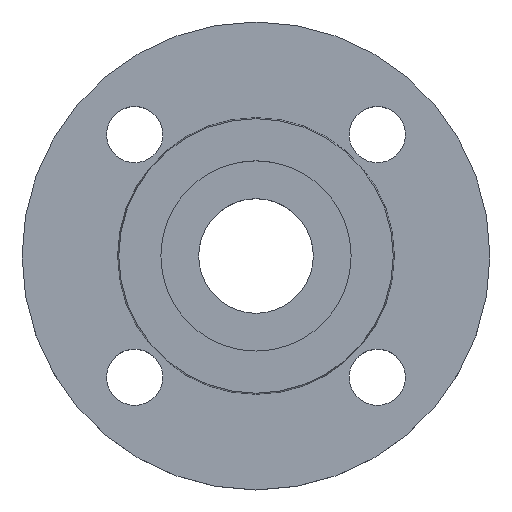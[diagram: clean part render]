
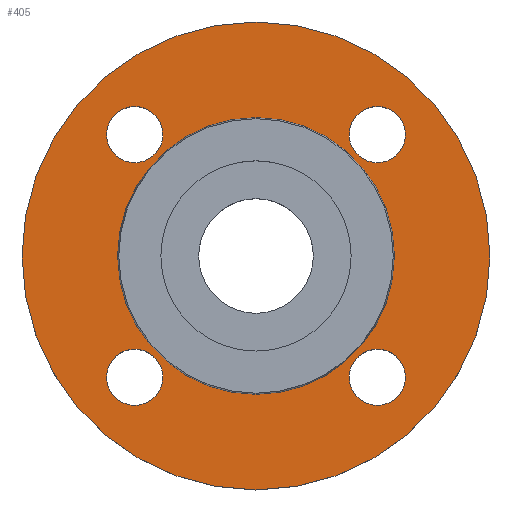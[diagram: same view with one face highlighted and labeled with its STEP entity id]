
A CAD part, top view. The second image highlights one B-rep face of the part: STEP entity #405.
In plain terms, the highlighted planar face has unit normal (0, 0, 1).
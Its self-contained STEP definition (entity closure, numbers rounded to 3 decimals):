
#7 = EDGE_CURVE ( 'NONE', #546, #531, #693, .T. ) ;
#25 = EDGE_CURVE ( 'NONE', #572, #395, #574, .T. ) ;
#82 = CIRCLE ( 'NONE', #93, 9. ) ;
#86 = DIRECTION ( 'NONE',  ( 0., 0., -1. ) ) ;
#88 = DIRECTION ( 'NONE',  ( 1., 0., 0. ) ) ;
#93 = AXIS2_PLACEMENT_3D ( 'NONE', #412, #86, #88 ) ;
#106 = DIRECTION ( 'NONE',  ( 1., 0., 0. ) ) ;
#107 = CARTESIAN_POINT ( 'NONE',  ( 47.891, -38.891, -2. ) ) ;
#109 = CIRCLE ( 'NONE', #111, 9. ) ;
#111 = AXIS2_PLACEMENT_3D ( 'NONE', #234, #235, #238 ) ;
#112 = CARTESIAN_POINT ( 'NONE',  ( 38.891, -38.891, -2. ) ) ;
#116 = FACE_BOUND ( 'NONE', #567, .T. ) ;
#122 = FACE_BOUND ( 'NONE', #331, .T. ) ;
#125 = FACE_BOUND ( 'NONE', #385, .T. ) ;
#129 = CIRCLE ( 'NONE', #144, 44.353 ) ;
#133 = FACE_BOUND ( 'NONE', #588, .T. ) ;
#136 = DIRECTION ( 'NONE',  ( -1., 0., 0. ) ) ;
#137 = DIRECTION ( 'NONE',  ( 0., 0., -1. ) ) ;
#138 = CARTESIAN_POINT ( 'NONE',  ( 0., 0., -2. ) ) ;
#141 = DIRECTION ( 'NONE',  ( 0., 0., -1. ) ) ;
#144 = AXIS2_PLACEMENT_3D ( 'NONE', #138, #137, #136 ) ;
#150 = CIRCLE ( 'NONE', #227, 9. ) ;
#157 = CARTESIAN_POINT ( 'NONE',  ( -44.353, 0., -2. ) ) ;
#161 = CARTESIAN_POINT ( 'NONE',  ( 0., 0., -2. ) ) ;
#164 = DIRECTION ( 'NONE',  ( 0., 0., -1. ) ) ;
#171 = FACE_BOUND ( 'NONE', #570, .T. ) ;
#172 = CARTESIAN_POINT ( 'NONE',  ( 44.353, 0., -2. ) ) ;
#175 = CARTESIAN_POINT ( 'NONE',  ( -47.891, -38.891, -2. ) ) ;
#176 = FACE_OUTER_BOUND ( 'NONE', #363, .T. ) ;
#181 = PLANE ( 'NONE',  #413 ) ;
#186 = CARTESIAN_POINT ( 'NONE',  ( -29.891, -38.891, -2. ) ) ;
#187 = CIRCLE ( 'NONE', #417, 75. ) ;
#188 = CARTESIAN_POINT ( 'NONE',  ( -47.891, 38.891, -2. ) ) ;
#189 = CARTESIAN_POINT ( 'NONE',  ( 44.353, 0., -2. ) ) ;
#192 = DIRECTION ( 'NONE',  ( 0., 0., 1. ) ) ;
#195 = DIRECTION ( 'NONE',  ( 0., 0., -1. ) ) ;
#197 = DIRECTION ( 'NONE',  ( 1., 0., 0. ) ) ;
#200 = CARTESIAN_POINT ( 'NONE',  ( 75., 0., -2. ) ) ;
#205 = CARTESIAN_POINT ( 'NONE',  ( 0., 0., -2. ) ) ;
#207 = CARTESIAN_POINT ( 'NONE',  ( 29.891, -38.891, -2. ) ) ;
#209 = DIRECTION ( 'NONE',  ( 0., 0., -1. ) ) ;
#211 = DIRECTION ( 'NONE',  ( -1., 0., 0. ) ) ;
#227 = AXIS2_PLACEMENT_3D ( 'NONE', #626, #195, #358 ) ;
#234 = CARTESIAN_POINT ( 'NONE',  ( 38.891, 38.891, -2. ) ) ;
#235 = DIRECTION ( 'NONE',  ( 0., 0., -1. ) ) ;
#238 = DIRECTION ( 'NONE',  ( 1., 0., 0. ) ) ;
#239 = CIRCLE ( 'NONE', #590, 9. ) ;
#255 = AXIS2_PLACEMENT_3D ( 'NONE', #716, #718, #719 ) ;
#258 = EDGE_CURVE ( 'NONE', #316, #318, #802, .T. ) ;
#260 = AXIS2_PLACEMENT_3D ( 'NONE', #600, #601, #602 ) ;
#272 = EDGE_CURVE ( 'NONE', #550, #499, #774, .T. ) ;
#274 = ORIENTED_EDGE ( 'NONE', *, *, #418, .F. ) ;
#292 = CARTESIAN_POINT ( 'NONE',  ( -75., 0., -2. ) ) ;
#316 = VERTEX_POINT ( 'NONE', #771 ) ;
#318 = VERTEX_POINT ( 'NONE', #776 ) ;
#322 = ORIENTED_EDGE ( 'NONE', *, *, #258, .T. ) ;
#331 = EDGE_LOOP ( 'NONE', ( #431, #433 ) ) ;
#334 = VERTEX_POINT ( 'NONE', #787 ) ;
#340 = EDGE_CURVE ( 'NONE', #531, #546, #564, .T. ) ;
#358 = DIRECTION ( 'NONE',  ( 1., 0., 0. ) ) ;
#363 = EDGE_LOOP ( 'NONE', ( #500, #274 ) ) ;
#373 = DIRECTION ( 'NONE',  ( -1., 0., 0. ) ) ;
#375 = EDGE_CURVE ( 'NONE', #537, #334, #82, .T. ) ;
#385 = EDGE_LOOP ( 'NONE', ( #538, #526 ) ) ;
#395 = VERTEX_POINT ( 'NONE', #107 ) ;
#400 = AXIS2_PLACEMENT_3D ( 'NONE', #741, #742, #743 ) ;
#405 = ADVANCED_FACE ( 'NONE', ( #116, #122, #125, #133, #171, #176 ), #181, .T. ) ;
#412 = CARTESIAN_POINT ( 'NONE',  ( -38.891, 38.891, -2. ) ) ;
#413 = AXIS2_PLACEMENT_3D ( 'NONE', #189, #192, #197 ) ;
#417 = AXIS2_PLACEMENT_3D ( 'NONE', #161, #164, #373 ) ;
#418 = EDGE_CURVE ( 'NONE', #553, #528, #429, .T. ) ;
#427 = ORIENTED_EDGE ( 'NONE', *, *, #654, .T. ) ;
#429 = CIRCLE ( 'NONE', #800, 75. ) ;
#430 = ORIENTED_EDGE ( 'NONE', *, *, #25, .T. ) ;
#431 = ORIENTED_EDGE ( 'NONE', *, *, #340, .T. ) ;
#432 = EDGE_CURVE ( 'NONE', #318, #316, #109, .T. ) ;
#433 = ORIENTED_EDGE ( 'NONE', *, *, #7, .T. ) ;
#434 = ORIENTED_EDGE ( 'NONE', *, *, #432, .T. ) ;
#438 = ORIENTED_EDGE ( 'NONE', *, *, #481, .T. ) ;
#481 = EDGE_CURVE ( 'NONE', #499, #550, #129, .T. ) ;
#499 = VERTEX_POINT ( 'NONE', #157 ) ;
#500 = ORIENTED_EDGE ( 'NONE', *, *, #561, .F. ) ;
#526 = ORIENTED_EDGE ( 'NONE', *, *, #375, .T. ) ;
#528 = VERTEX_POINT ( 'NONE', #200 ) ;
#531 = VERTEX_POINT ( 'NONE', #186 ) ;
#537 = VERTEX_POINT ( 'NONE', #188 ) ;
#538 = ORIENTED_EDGE ( 'NONE', *, *, #630, .T. ) ;
#546 = VERTEX_POINT ( 'NONE', #175 ) ;
#550 = VERTEX_POINT ( 'NONE', #172 ) ;
#553 = VERTEX_POINT ( 'NONE', #292 ) ;
#561 = EDGE_CURVE ( 'NONE', #528, #553, #187, .T. ) ;
#564 = CIRCLE ( 'NONE', #603, 9. ) ;
#567 = EDGE_LOOP ( 'NONE', ( #427, #430 ) ) ;
#570 = EDGE_LOOP ( 'NONE', ( #438, #761 ) ) ;
#572 = VERTEX_POINT ( 'NONE', #207 ) ;
#574 = CIRCLE ( 'NONE', #260, 9. ) ;
#588 = EDGE_LOOP ( 'NONE', ( #322, #434 ) ) ;
#590 = AXIS2_PLACEMENT_3D ( 'NONE', #112, #141, #106 ) ;
#594 = CARTESIAN_POINT ( 'NONE',  ( -38.891, -38.891, -2. ) ) ;
#595 = DIRECTION ( 'NONE',  ( 0., 0., -1. ) ) ;
#596 = DIRECTION ( 'NONE',  ( 1., 0., 0. ) ) ;
#600 = CARTESIAN_POINT ( 'NONE',  ( 38.891, -38.891, -2. ) ) ;
#601 = DIRECTION ( 'NONE',  ( 0., 0., -1. ) ) ;
#602 = DIRECTION ( 'NONE',  ( 1., 0., 0. ) ) ;
#603 = AXIS2_PLACEMENT_3D ( 'NONE', #790, #791, #792 ) ;
#626 = CARTESIAN_POINT ( 'NONE',  ( -38.891, 38.891, -2. ) ) ;
#630 = EDGE_CURVE ( 'NONE', #334, #537, #150, .T. ) ;
#654 = EDGE_CURVE ( 'NONE', #395, #572, #239, .T. ) ;
#680 = AXIS2_PLACEMENT_3D ( 'NONE', #594, #595, #596 ) ;
#693 = CIRCLE ( 'NONE', #680, 9. ) ;
#716 = CARTESIAN_POINT ( 'NONE',  ( 38.891, 38.891, -2. ) ) ;
#718 = DIRECTION ( 'NONE',  ( 0., 0., -1. ) ) ;
#719 = DIRECTION ( 'NONE',  ( 1., 0., 0. ) ) ;
#741 = CARTESIAN_POINT ( 'NONE',  ( 0., 0., -2. ) ) ;
#742 = DIRECTION ( 'NONE',  ( 0., 0., -1. ) ) ;
#743 = DIRECTION ( 'NONE',  ( -1., 0., 0. ) ) ;
#761 = ORIENTED_EDGE ( 'NONE', *, *, #272, .T. ) ;
#771 = CARTESIAN_POINT ( 'NONE',  ( 47.891, 38.891, -2. ) ) ;
#774 = CIRCLE ( 'NONE', #400, 44.353 ) ;
#776 = CARTESIAN_POINT ( 'NONE',  ( 29.891, 38.891, -2. ) ) ;
#787 = CARTESIAN_POINT ( 'NONE',  ( -29.891, 38.891, -2. ) ) ;
#790 = CARTESIAN_POINT ( 'NONE',  ( -38.891, -38.891, -2. ) ) ;
#791 = DIRECTION ( 'NONE',  ( 0., 0., -1. ) ) ;
#792 = DIRECTION ( 'NONE',  ( 1., 0., 0. ) ) ;
#800 = AXIS2_PLACEMENT_3D ( 'NONE', #205, #209, #211 ) ;
#802 = CIRCLE ( 'NONE', #255, 9. ) ;
